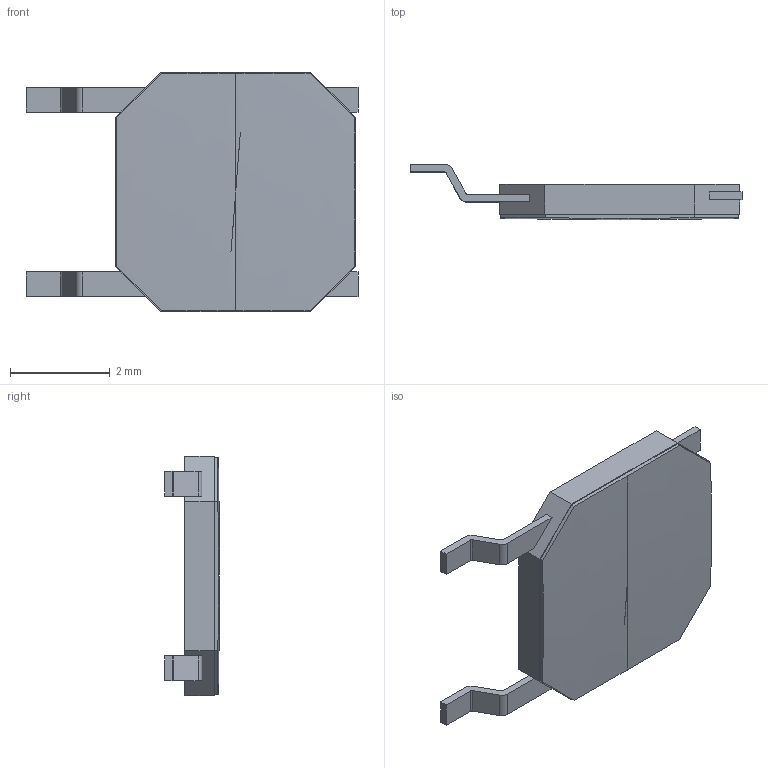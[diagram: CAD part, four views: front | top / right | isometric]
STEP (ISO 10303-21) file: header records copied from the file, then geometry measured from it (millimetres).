
FILE_DESCRIPTION((''),'2;1');
FILE_NAME('JQL4848-A0070-07EG-1-105_ASM','2026-07-03T15:48:17',('Admin'),(''),'CREO PARAMETRIC BY PTC INC, 2019224','CREO PARAMETRIC BY PTC INC, 2019224','');
FILE_SCHEMA(('AUTOMOTIVE_DESIGN { 1 0 10303 214 1 1 1 1 }'));
Length unit declared in the file: millimetre
Products named in the file (3): JQL4848-A0070-07EG-1-105_01; JQL4848-A0070-07EG-1-105_02; JQL4848-A0070-07EG-1-105_ASM
Assembly tree (2 placements, depth 2):
  JQL4848-A0070-07EG-1-105_ASM
    JQL4848-A0070-07EG-1-105_01
    JQL4848-A0070-07EG-1-105_02
Bounding box: 6.65 x 1.1 x 4.8 mm (x, y, z)
Volume: 12.5 mm3; surface area: 111.2 mm2
Topology: 2 solids, 2 shells, 86 faces, 234 edges, 156 vertices
Faces by surface type: plane 70, cylinder 12, sphere 2, revolution 2
Entity records: 4196 total; most frequent: CARTESIAN_POINT 595, ORIENTED_EDGE 456, DIRECTION 444, PRESENTATION_STYLE_ASSIGNMENT 279, STYLED_ITEM 235, CURVE_STYLE 233, EDGE_CURVE 228, VECTOR 184
